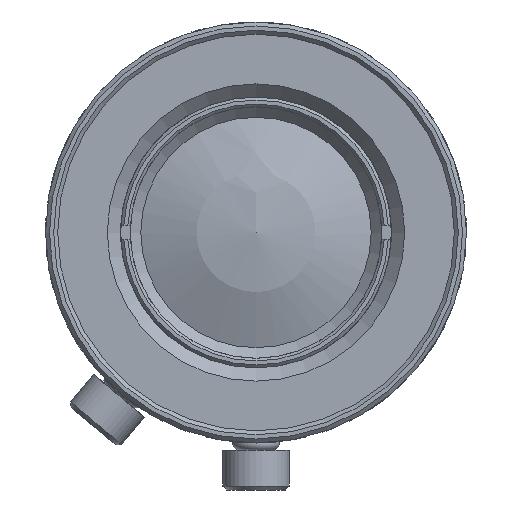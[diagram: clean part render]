
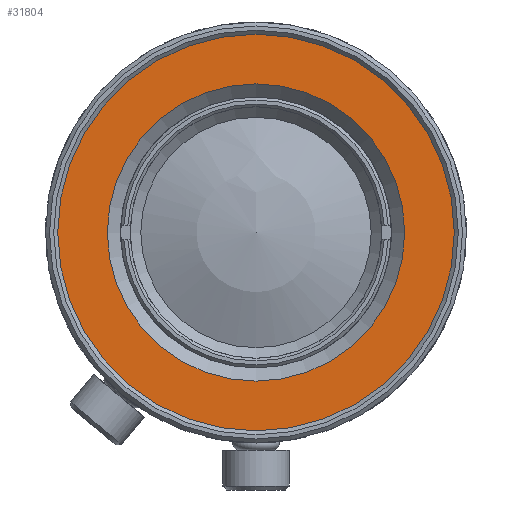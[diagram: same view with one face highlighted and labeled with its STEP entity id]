
A CAD part, front view. The second image highlights one B-rep face of the part: STEP entity #31804.
In plain terms, the highlighted planar face has unit normal (0, -1, 0).
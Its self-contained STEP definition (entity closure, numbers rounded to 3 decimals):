
#10767=ORIENTED_EDGE('',*,*,#14099,.T.);
#10768=ORIENTED_EDGE('',*,*,#14098,.T.);
#14098=EDGE_CURVE('',#16333,#16333,#17233,.T.);
#14099=EDGE_CURVE('',#16334,#16334,#17234,.T.);
#16333=VERTEX_POINT('',#58928);
#16334=VERTEX_POINT('',#58931);
#17233=CIRCLE('',#33972,11.23);
#17234=CIRCLE('',#33974,15.25);
#18799=EDGE_LOOP('',(#10767));
#18800=EDGE_LOOP('',(#10768));
#20386=FACE_BOUND('',#18799,.T.);
#20387=FACE_BOUND('',#18800,.T.);
#21168=PLANE('',#33973);
#31804=ADVANCED_FACE('',(#20386,#20387),#21168,.T.);
#33972=AXIS2_PLACEMENT_3D('',#58927,#39500,#39501);
#33973=AXIS2_PLACEMENT_3D('',#58929,#39502,#39503);
#33974=AXIS2_PLACEMENT_3D('',#58930,#39504,#39505);
#39500=DIRECTION('',(0.,1.,0.));
#39501=DIRECTION('',(1.,0.,0.));
#39502=DIRECTION('',(0.,-1.,0.));
#39503=DIRECTION('',(0.,0.,-1.));
#39504=DIRECTION('',(0.,-1.,0.));
#39505=DIRECTION('',(0.,0.,-1.));
#58927=CARTESIAN_POINT('',(0.,-53.65,0.));
#58928=CARTESIAN_POINT('',(11.23,-53.65,0.));
#58929=CARTESIAN_POINT('',(0.,-53.65,15.25));
#58930=CARTESIAN_POINT('',(0.,-53.65,0.));
#58931=CARTESIAN_POINT('',(0.,-53.65,-15.25));
